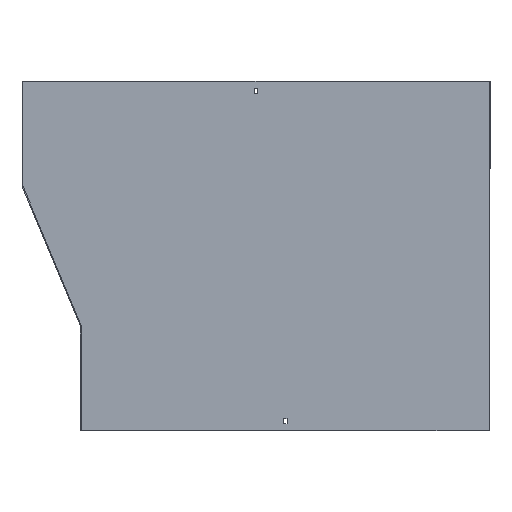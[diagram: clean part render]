
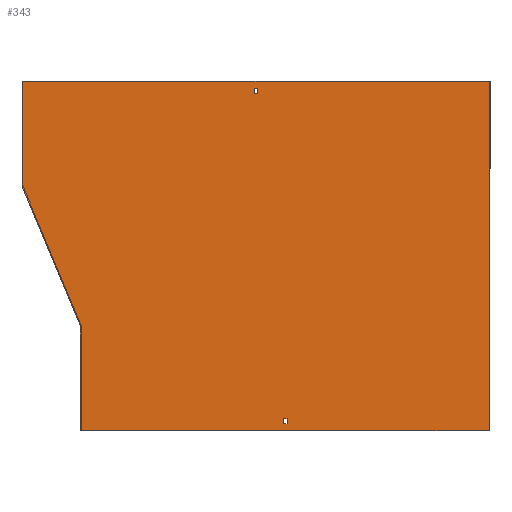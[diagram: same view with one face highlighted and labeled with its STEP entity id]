
A CAD part, front view. The second image highlights one B-rep face of the part: STEP entity #343.
In plain terms, the highlighted planar face has unit normal (0, -1, 0).
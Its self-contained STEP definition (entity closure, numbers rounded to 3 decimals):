
#1 = CARTESIAN_POINT ( 'NONE',  ( -3.25, -1.5, -21. ) ) ;
#7 = LINE ( 'NONE', #482, #174 ) ;
#19 = VECTOR ( 'NONE', #100, 1000. ) ;
#35 = LINE ( 'NONE', #692, #409 ) ;
#36 = LINE ( 'NONE', #144, #519 ) ;
#38 = VERTEX_POINT ( 'NONE', #1 ) ;
#42 = VECTOR ( 'NONE', #408, 1000. ) ;
#44 = LINE ( 'NONE', #430, #115 ) ;
#49 = CARTESIAN_POINT ( 'NONE',  ( 53.25, -1.5, -579. ) ) ;
#51 = DIRECTION ( 'NONE',  ( 1., 0., 0. ) ) ;
#55 = CARTESIAN_POINT ( 'NONE',  ( 401.5, -1.5, 0. ) ) ;
#74 = ORIENTED_EDGE ( 'NONE', *, *, #579, .F. ) ;
#79 = VERTEX_POINT ( 'NONE', #693 ) ;
#85 = EDGE_CURVE ( 'NONE', #436, #313, #309, .T. ) ;
#89 = LINE ( 'NONE', #425, #534 ) ;
#91 = VECTOR ( 'NONE', #328, 1000. ) ;
#100 = DIRECTION ( 'NONE',  ( 0., 0., -1. ) ) ;
#102 = CARTESIAN_POINT ( 'NONE',  ( 400., -1.5, 0. ) ) ;
#111 = CARTESIAN_POINT ( 'NONE',  ( -300., -1.5, -419.7 ) ) ;
#115 = VECTOR ( 'NONE', #157, 1000. ) ;
#117 = LINE ( 'NONE', #55, #367 ) ;
#125 = AXIS2_PLACEMENT_3D ( 'NONE', #250, #650, #259 ) ;
#126 = EDGE_CURVE ( 'NONE', #313, #277, #282, .T. ) ;
#140 = EDGE_CURVE ( 'NONE', #594, #586, #7, .T. ) ;
#144 = CARTESIAN_POINT ( 'NONE',  ( 400., -1.5, -600. ) ) ;
#146 = EDGE_CURVE ( 'NONE', #601, #215, #35, .T. ) ;
#147 = VECTOR ( 'NONE', #713, 1000. ) ;
#148 = DIRECTION ( 'NONE',  ( 0., 0., 1. ) ) ;
#149 = FACE_BOUND ( 'NONE', #344, .T. ) ;
#150 = VECTOR ( 'NONE', #603, 1000. ) ;
#154 = CARTESIAN_POINT ( 'NONE',  ( 0., -1.5, -21. ) ) ;
#157 = DIRECTION ( 'NONE',  ( 0., 0., 1. ) ) ;
#165 = VERTEX_POINT ( 'NONE', #253 ) ;
#174 = VECTOR ( 'NONE', #148, 1000. ) ;
#175 = EDGE_CURVE ( 'NONE', #556, #594, #416, .T. ) ;
#197 = EDGE_LOOP ( 'NONE', ( #541, #528, #468, #709, #655, #690 ) ) ;
#215 = VERTEX_POINT ( 'NONE', #669 ) ;
#219 = VECTOR ( 'NONE', #700, 1000. ) ;
#222 = CARTESIAN_POINT ( 'NONE',  ( 0., -1.5, -588. ) ) ;
#238 = EDGE_CURVE ( 'NONE', #277, #165, #389, .T. ) ;
#250 = CARTESIAN_POINT ( 'NONE',  ( 0., -1.5, 0. ) ) ;
#251 = EDGE_CURVE ( 'NONE', #165, #436, #675, .T. ) ;
#253 = CARTESIAN_POINT ( 'NONE',  ( 46.75, -1.5, -588. ) ) ;
#255 = CARTESIAN_POINT ( 'NONE',  ( 53.25, -1.5, 0. ) ) ;
#256 = EDGE_LOOP ( 'NONE', ( #605, #283, #622, #580 ) ) ;
#259 = DIRECTION ( 'NONE',  ( 0., 0., -1. ) ) ;
#263 = FACE_OUTER_BOUND ( 'NONE', #197, .T. ) ;
#266 = VERTEX_POINT ( 'NONE', #102 ) ;
#272 = ORIENTED_EDGE ( 'NONE', *, *, #146, .F. ) ;
#277 = VERTEX_POINT ( 'NONE', #632 ) ;
#282 = LINE ( 'NONE', #574, #513 ) ;
#283 = ORIENTED_EDGE ( 'NONE', *, *, #126, .F. ) ;
#284 = ORIENTED_EDGE ( 'NONE', *, *, #312, .F. ) ;
#302 = DIRECTION ( 'NONE',  ( -1., 0., 0. ) ) ;
#305 = LINE ( 'NONE', #154, #219 ) ;
#309 = LINE ( 'NONE', #255, #42 ) ;
#312 = EDGE_CURVE ( 'NONE', #525, #601, #44, .T. ) ;
#313 = VERTEX_POINT ( 'NONE', #49 ) ;
#328 = DIRECTION ( 'NONE',  ( 0., 0., 1. ) ) ;
#336 = VERTEX_POINT ( 'NONE', #497 ) ;
#337 = EDGE_CURVE ( 'NONE', #266, #556, #36, .T. ) ;
#343 = ADVANCED_FACE ( 'NONE', ( #413, #149, #263 ), #420, .T. ) ;
#344 = EDGE_LOOP ( 'NONE', ( #74, #272, #284, #355 ) ) ;
#349 = EDGE_CURVE ( 'NONE', #586, #79, #89, .T. ) ;
#355 = ORIENTED_EDGE ( 'NONE', *, *, #376, .F. ) ;
#367 = VECTOR ( 'NONE', #51, 1000. ) ;
#368 = DIRECTION ( 'NONE',  ( 0., 0., -1. ) ) ;
#376 = EDGE_CURVE ( 'NONE', #38, #525, #305, .T. ) ;
#388 = CARTESIAN_POINT ( 'NONE',  ( 3.25, -1.5, -21. ) ) ;
#389 = LINE ( 'NONE', #444, #19 ) ;
#408 = DIRECTION ( 'NONE',  ( 0., 0., 1. ) ) ;
#409 = VECTOR ( 'NONE', #699, 1000. ) ;
#412 = CARTESIAN_POINT ( 'NONE',  ( -301.5, -1.5, -600. ) ) ;
#413 = FACE_BOUND ( 'NONE', #256, .T. ) ;
#416 = LINE ( 'NONE', #412, #585 ) ;
#420 = PLANE ( 'NONE',  #125 ) ;
#425 = CARTESIAN_POINT ( 'NONE',  ( -400.115, -1.5, -179.423 ) ) ;
#430 = CARTESIAN_POINT ( 'NONE',  ( 3.25, -1.5, 0. ) ) ;
#431 = CARTESIAN_POINT ( 'NONE',  ( -300., -1.5, -600. ) ) ;
#436 = VERTEX_POINT ( 'NONE', #545 ) ;
#444 = CARTESIAN_POINT ( 'NONE',  ( 46.75, -1.5, 0. ) ) ;
#468 = ORIENTED_EDGE ( 'NONE', *, *, #349, .F. ) ;
#482 = CARTESIAN_POINT ( 'NONE',  ( -300., -1.5, -420. ) ) ;
#491 = EDGE_CURVE ( 'NONE', #336, #266, #117, .T. ) ;
#492 = CARTESIAN_POINT ( 'NONE',  ( -3.25, -1.5, 0. ) ) ;
#497 = CARTESIAN_POINT ( 'NONE',  ( -400., -1.5, 0. ) ) ;
#513 = VECTOR ( 'NONE', #563, 1000. ) ;
#519 = VECTOR ( 'NONE', #368, 1000. ) ;
#525 = VERTEX_POINT ( 'NONE', #388 ) ;
#528 = ORIENTED_EDGE ( 'NONE', *, *, #533, .F. ) ;
#533 = EDGE_CURVE ( 'NONE', #79, #336, #668, .T. ) ;
#534 = VECTOR ( 'NONE', #704, 1000. ) ;
#541 = ORIENTED_EDGE ( 'NONE', *, *, #491, .F. ) ;
#545 = CARTESIAN_POINT ( 'NONE',  ( 53.25, -1.5, -588. ) ) ;
#550 = CARTESIAN_POINT ( 'NONE',  ( 400., -1.5, -600. ) ) ;
#556 = VERTEX_POINT ( 'NONE', #550 ) ;
#563 = DIRECTION ( 'NONE',  ( -1., 0., 0. ) ) ;
#574 = CARTESIAN_POINT ( 'NONE',  ( 0., -1.5, -579. ) ) ;
#579 = EDGE_CURVE ( 'NONE', #215, #38, #665, .T. ) ;
#580 = ORIENTED_EDGE ( 'NONE', *, *, #251, .F. ) ;
#585 = VECTOR ( 'NONE', #302, 1000. ) ;
#586 = VERTEX_POINT ( 'NONE', #111 ) ;
#594 = VERTEX_POINT ( 'NONE', #431 ) ;
#601 = VERTEX_POINT ( 'NONE', #657 ) ;
#603 = DIRECTION ( 'NONE',  ( 1., 0., 0. ) ) ;
#605 = ORIENTED_EDGE ( 'NONE', *, *, #238, .F. ) ;
#607 = CARTESIAN_POINT ( 'NONE',  ( -400., -1.5, 0. ) ) ;
#622 = ORIENTED_EDGE ( 'NONE', *, *, #85, .F. ) ;
#632 = CARTESIAN_POINT ( 'NONE',  ( 46.75, -1.5, -579. ) ) ;
#650 = DIRECTION ( 'NONE',  ( 0., -1., 0. ) ) ;
#655 = ORIENTED_EDGE ( 'NONE', *, *, #175, .F. ) ;
#657 = CARTESIAN_POINT ( 'NONE',  ( 3.25, -1.5, -12. ) ) ;
#665 = LINE ( 'NONE', #492, #147 ) ;
#668 = LINE ( 'NONE', #607, #91 ) ;
#669 = CARTESIAN_POINT ( 'NONE',  ( -3.25, -1.5, -12. ) ) ;
#675 = LINE ( 'NONE', #222, #150 ) ;
#690 = ORIENTED_EDGE ( 'NONE', *, *, #337, .F. ) ;
#692 = CARTESIAN_POINT ( 'NONE',  ( 0., -1.5, -12. ) ) ;
#693 = CARTESIAN_POINT ( 'NONE',  ( -400., -1.5, -179.7 ) ) ;
#699 = DIRECTION ( 'NONE',  ( -1., 0., 0. ) ) ;
#700 = DIRECTION ( 'NONE',  ( 1., 0., 0. ) ) ;
#704 = DIRECTION ( 'NONE',  ( -0.385, 0., 0.923 ) ) ;
#709 = ORIENTED_EDGE ( 'NONE', *, *, #140, .F. ) ;
#713 = DIRECTION ( 'NONE',  ( 0., 0., -1. ) ) ;
